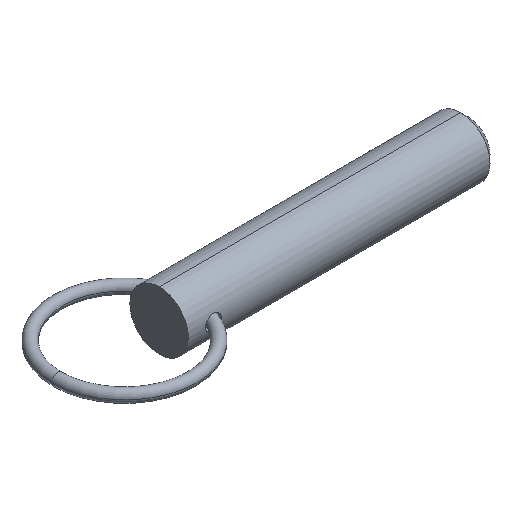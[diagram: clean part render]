
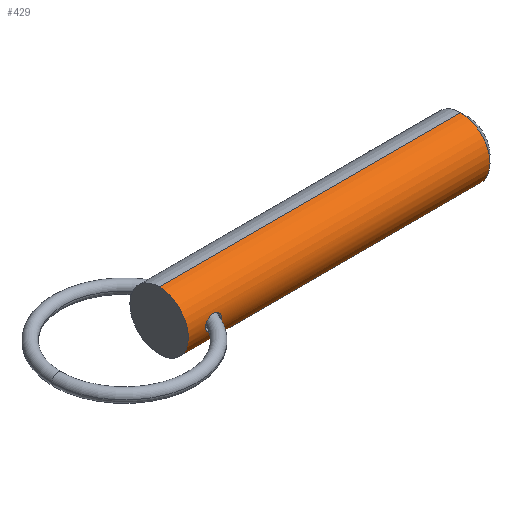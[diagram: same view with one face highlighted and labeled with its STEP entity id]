
A CAD part, isometric view. The second image highlights one B-rep face of the part: STEP entity #429.
In plain terms, the highlighted cylindrical face has radius 5.555 mm (diameter 11.11 mm), a partial arc.
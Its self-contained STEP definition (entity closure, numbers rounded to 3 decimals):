
#3 = CARTESIAN_POINT ( 'NONE',  ( 3.496, -5.51, -0.722 ) ) ;
#11 = CARTESIAN_POINT ( 'NONE',  ( 4.931, -5.378, -1.391 ) ) ;
#24 = CARTESIAN_POINT ( 'NONE',  ( 57.331, 0., 5.555 ) ) ;
#40 = LINE ( 'NONE', #651, #811 ) ;
#62 = ORIENTED_EDGE ( 'NONE', *, *, #247, .F. ) ;
#68 = CARTESIAN_POINT ( 'NONE',  ( 3.256, -5.555, 0. ) ) ;
#72 = CARTESIAN_POINT ( 'NONE',  ( 5.218, -5.385, -1.362 ) ) ;
#76 = CARTESIAN_POINT ( 'NONE',  ( 4.089, -5.424, -1.202 ) ) ;
#86 = CARTESIAN_POINT ( 'NONE',  ( 4.453, -5.392, 1.339 ) ) ;
#124 = ORIENTED_EDGE ( 'NONE', *, *, #298, .T. ) ;
#132 = CARTESIAN_POINT ( 'NONE',  ( 3.319, -5.543, -0.379 ) ) ;
#143 = CARTESIAN_POINT ( 'NONE',  ( 6.35, -5.555, -0.194 ) ) ;
#148 = DIRECTION ( 'NONE',  ( 1., 0., 0. ) ) ;
#182 = EDGE_LOOP ( 'NONE', ( #352, #863 ) ) ;
#187 = ORIENTED_EDGE ( 'NONE', *, *, #616, .F. ) ;
#193 = CARTESIAN_POINT ( 'NONE',  ( 5.587, -5.413, -1.25 ) ) ;
#212 = DIRECTION ( 'NONE',  ( 1., 0., 0. ) ) ;
#218 = CARTESIAN_POINT ( 'NONE',  ( 4.646, -5.381, 1.379 ) ) ;
#225 = CARTESIAN_POINT ( 'NONE',  ( 5.219, -5.385, 1.362 ) ) ;
#230 = DIRECTION ( 'NONE',  ( 1., 0., 0. ) ) ;
#231 = CARTESIAN_POINT ( 'NONE',  ( 4.095, -5.423, 1.204 ) ) ;
#247 = EDGE_CURVE ( 'NONE', #248, #524, #40, .T. ) ;
#248 = VERTEX_POINT ( 'NONE', #448 ) ;
#254 = CARTESIAN_POINT ( 'NONE',  ( 6.301, -5.543, 0.381 ) ) ;
#268 = CARTESIAN_POINT ( 'NONE',  ( 3.623, -5.489, -0.866 ) ) ;
#281 = AXIS2_PLACEMENT_3D ( 'NONE', #691, #212, #462 ) ;
#298 = EDGE_CURVE ( 'NONE', #561, #391, #859, .T. ) ;
#301 = CARTESIAN_POINT ( 'NONE',  ( 3.256, -5.555, 0. ) ) ;
#304 = DIRECTION ( 'NONE',  ( 1., 0., 0. ) ) ;
#310 = B_SPLINE_CURVE_WITH_KNOTS ( 'NONE', 3,
 ( #415, #143, #629, #809, #620, #750, #615, #559, #193, #564, #72, #467, #11, #815, #350, #76, #820, #268, #3, #549, #132, #675, #623, #68 ),
 .UNSPECIFIED., .F., .F.,
 ( 4, 2, 2, 2, 2, 2, 2, 2, 2, 2, 2, 4 ),
 ( 0.005, 0.006, 0.006, 0.006, 0.007, 0.007, 0.008, 0.008, 0.009, 0.009, 0.01, 0.01 ),
 .UNSPECIFIED. ) ;
#312 = CARTESIAN_POINT ( 'NONE',  ( 6.35, -5.555, 0.097 ) ) ;
#326 = CARTESIAN_POINT ( 'NONE',  ( 3.256, -5.555, 0. ) ) ;
#350 = CARTESIAN_POINT ( 'NONE',  ( 4.451, -5.392, -1.339 ) ) ;
#351 = CARTESIAN_POINT ( 'NONE',  ( 3.627, -5.488, 0.87 ) ) ;
#352 = ORIENTED_EDGE ( 'NONE', *, *, #456, .T. ) ;
#360 = AXIS2_PLACEMENT_3D ( 'NONE', #433, #230, #576 ) ;
#362 = B_SPLINE_CURVE_WITH_KNOTS ( 'NONE', 3,
 ( #326, #560, #541, #413, #565, #695, #351, #501, #231, #86, #218, #489, #765, #225, #690, #569, #708, #556, #518, #451, #254, #536, #312, #594 ),
 .UNSPECIFIED., .F., .F.,
 ( 4, 2, 2, 2, 2, 2, 2, 2, 2, 2, 2, 4 ),
 ( 0.001, 0.001, 0.001, 0.002, 0.002, 0.003, 0.003, 0.003, 0.004, 0.005, 0.005, 0.005 ),
 .UNSPECIFIED. ) ;
#384 = CARTESIAN_POINT ( 'NONE',  ( 0., 0., -5.555 ) ) ;
#391 = VERTEX_POINT ( 'NONE', #665 ) ;
#395 = EDGE_LOOP ( 'NONE', ( #62, #788, #124, #187 ) ) ;
#401 = VERTEX_POINT ( 'NONE', #600 ) ;
#413 = CARTESIAN_POINT ( 'NONE',  ( 3.32, -5.543, 0.38 ) ) ;
#415 = CARTESIAN_POINT ( 'NONE',  ( 6.35, -5.555, 0. ) ) ;
#429 = ADVANCED_FACE ( 'NONE', ( #523, #568 ), #471, .T. ) ;
#431 = VECTOR ( 'NONE', #304, 1000. ) ;
#433 = CARTESIAN_POINT ( 'NONE',  ( 57.331, 0., 0. ) ) ;
#448 = CARTESIAN_POINT ( 'NONE',  ( 0., 0., 5.555 ) ) ;
#451 = CARTESIAN_POINT ( 'NONE',  ( 6.271, -5.535, 0.475 ) ) ;
#456 = EDGE_CURVE ( 'NONE', #626, #401, #362, .T. ) ;
#462 = DIRECTION ( 'NONE',  ( 0., 0., -1. ) ) ;
#466 = CIRCLE ( 'NONE', #360, 5.555 ) ;
#467 = CARTESIAN_POINT ( 'NONE',  ( 5.027, -5.379, -1.387 ) ) ;
#471 = CYLINDRICAL_SURFACE ( 'NONE', #281, 5.555 ) ;
#489 = CARTESIAN_POINT ( 'NONE',  ( 4.932, -5.378, 1.391 ) ) ;
#501 = CARTESIAN_POINT ( 'NONE',  ( 3.924, -5.445, 1.109 ) ) ;
#515 = EDGE_CURVE ( 'NONE', #248, #561, #590, .T. ) ;
#518 = CARTESIAN_POINT ( 'NONE',  ( 6.156, -5.509, 0.738 ) ) ;
#523 = FACE_OUTER_BOUND ( 'NONE', #395, .T. ) ;
#524 = VERTEX_POINT ( 'NONE', #24 ) ;
#536 = CARTESIAN_POINT ( 'NONE',  ( 6.34, -5.552, 0.193 ) ) ;
#541 = CARTESIAN_POINT ( 'NONE',  ( 3.269, -5.552, 0.194 ) ) ;
#549 = CARTESIAN_POINT ( 'NONE',  ( 3.356, -5.536, -0.468 ) ) ;
#556 = CARTESIAN_POINT ( 'NONE',  ( 6.04, -5.483, 0.898 ) ) ;
#559 = CARTESIAN_POINT ( 'NONE',  ( 5.758, -5.436, -1.152 ) ) ;
#560 = CARTESIAN_POINT ( 'NONE',  ( 3.256, -5.555, 0.096 ) ) ;
#561 = VERTEX_POINT ( 'NONE', #754 ) ;
#564 = CARTESIAN_POINT ( 'NONE',  ( 5.313, -5.391, -1.341 ) ) ;
#565 = CARTESIAN_POINT ( 'NONE',  ( 3.357, -5.536, 0.47 ) ) ;
#568 = FACE_BOUND ( 'NONE', #182, .T. ) ;
#569 = CARTESIAN_POINT ( 'NONE',  ( 5.586, -5.413, 1.25 ) ) ;
#576 = DIRECTION ( 'NONE',  ( 0., 0., -1. ) ) ;
#590 = CIRCLE ( 'NONE', #682, 5.555 ) ;
#594 = CARTESIAN_POINT ( 'NONE',  ( 6.35, -5.555, 0. ) ) ;
#600 = CARTESIAN_POINT ( 'NONE',  ( 6.35, -5.555, 0. ) ) ;
#607 = DIRECTION ( 'NONE',  ( 1., 0., 0. ) ) ;
#615 = CARTESIAN_POINT ( 'NONE',  ( 5.97, -5.472, -0.961 ) ) ;
#616 = EDGE_CURVE ( 'NONE', #524, #391, #466, .T. ) ;
#620 = CARTESIAN_POINT ( 'NONE',  ( 6.147, -5.507, -0.733 ) ) ;
#623 = CARTESIAN_POINT ( 'NONE',  ( 3.256, -5.555, -0.096 ) ) ;
#626 = VERTEX_POINT ( 'NONE', #301 ) ;
#629 = CARTESIAN_POINT ( 'NONE',  ( 6.31, -5.544, -0.386 ) ) ;
#651 = CARTESIAN_POINT ( 'NONE',  ( 0., 0., 5.555 ) ) ;
#665 = CARTESIAN_POINT ( 'NONE',  ( 57.331, 0., -5.555 ) ) ;
#675 = CARTESIAN_POINT ( 'NONE',  ( 3.269, -5.552, -0.193 ) ) ;
#682 = AXIS2_PLACEMENT_3D ( 'NONE', #824, #148, #767 ) ;
#690 = CARTESIAN_POINT ( 'NONE',  ( 5.314, -5.391, 1.34 ) ) ;
#691 = CARTESIAN_POINT ( 'NONE',  ( 0., 0., 0. ) ) ;
#695 = CARTESIAN_POINT ( 'NONE',  ( 3.497, -5.51, 0.723 ) ) ;
#708 = CARTESIAN_POINT ( 'NONE',  ( 5.757, -5.436, 1.153 ) ) ;
#750 = CARTESIAN_POINT ( 'NONE',  ( 6.035, -5.484, -0.889 ) ) ;
#754 = CARTESIAN_POINT ( 'NONE',  ( 0., 0., -5.555 ) ) ;
#765 = CARTESIAN_POINT ( 'NONE',  ( 5.028, -5.379, 1.387 ) ) ;
#767 = DIRECTION ( 'NONE',  ( 0., 0., -1. ) ) ;
#788 = ORIENTED_EDGE ( 'NONE', *, *, #515, .T. ) ;
#809 = CARTESIAN_POINT ( 'NONE',  ( 6.194, -5.518, -0.65 ) ) ;
#811 = VECTOR ( 'NONE', #607, 1000. ) ;
#815 = CARTESIAN_POINT ( 'NONE',  ( 4.641, -5.381, -1.379 ) ) ;
#820 = CARTESIAN_POINT ( 'NONE',  ( 3.923, -5.445, -1.108 ) ) ;
#824 = CARTESIAN_POINT ( 'NONE',  ( 0., 0., 0. ) ) ;
#834 = EDGE_CURVE ( 'NONE', #401, #626, #310, .T. ) ;
#859 = LINE ( 'NONE', #384, #431 ) ;
#863 = ORIENTED_EDGE ( 'NONE', *, *, #834, .T. ) ;
